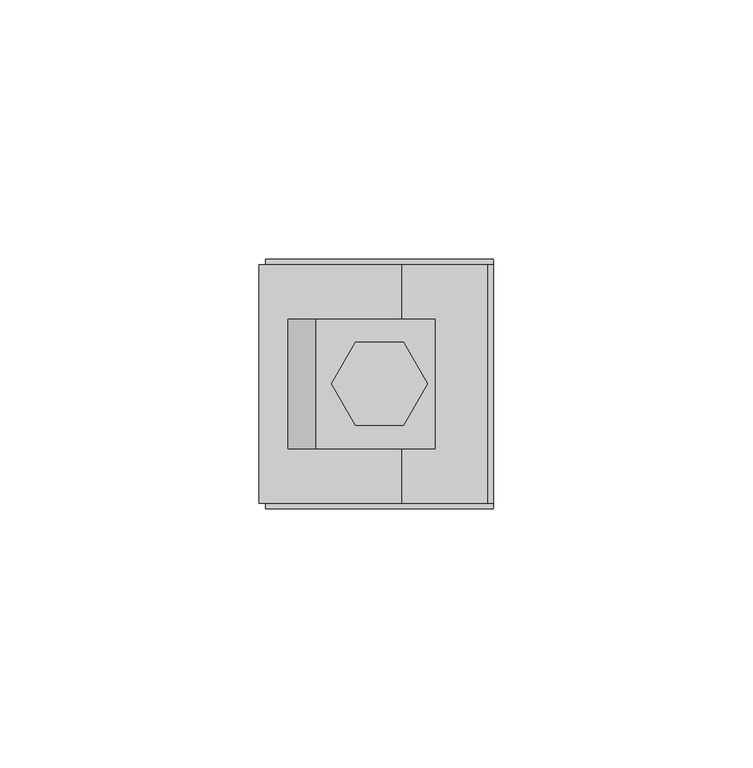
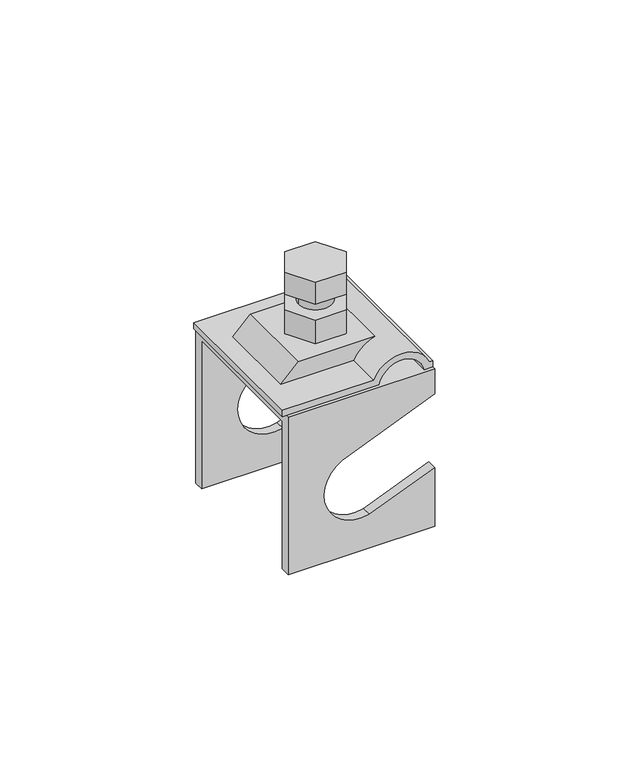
"""IFC4 building model written with IfcOpenShell, lengths in millimetres: proxy geometry, КНС_ЗажимАрматурный_DKC : ND2004_Гальванически оцинкованнная сталь_С наконечником."""

from ifc_helpers import new_model, si_unit, point, frame, frame_2d, origin, place, context, project, spatial, polyline, circle_curve, trimmed, segment, composite_curve, outline, extrude, source, transform, mapped, element, save
from ifc_brep_helpers import plane_surface, cylinder_surface, revolved_surface, advanced_brep


def security_devices_3cd45d94(model_context):
    return source(origin(), model_context, "Body", "SolidModel", [
        extrude(outline(composite_curve([segment(polyline([(36.2009519, -12.3612193), (30.9400841, -17.6220872), (30.9400841, 4.3678793)]), True, "CONTINUOUS"), segment(trimmed(circle_curve(frame_2d((27.4109306, 12.6460299)), 8.9990389), [point((30.9400841, 4.3678793))], [point((36.2009519, 10.7177594))], True, "CARTESIAN"), True, "CONTINUOUS"), segment(polyline([(36.2009519, 10.7177594), (36.2009519, -12.3612193)]), True, "CONTINUOUS")], self_intersect=False)), frame((0.0, -12.5, 0.0), z_axis=(0.0, 1.0, 0.0), x_axis=(0.0, 0.0, 1.0)), (0.0, 0.0, 1.0), 25.0),
        extrude(outline(polyline([(-9.2376043, 0.0), (-4.6188022, 8.0), (4.6188022, 8.0), (9.2376043, 0.0), (4.6188022, -8.0), (-4.6188022, -8.0), (-9.2376043, 0.0)])), frame((0.0, 0.0, 17.422542), z_axis=(0.0, 0.0, 1.0), x_axis=(1.0, 0.0, 0.0)), (0.0, 0.0, 1.0), 7.3626428),
        extrude(outline(polyline([(-9.2376043, 0.0), (-4.6188022, 8.0), (4.6188022, 8.0), (9.2376043, 0.0), (4.6188022, -8.0), (-4.6188022, -8.0), (-9.2376043, 0.0)])), frame((0.0, 0.0, 36.2009519), z_axis=(0.0, 0.0, 1.0), x_axis=(1.0, 0.0, 0.0)), (0.0, 0.0, 1.0), 7.815636),
        extrude(outline(composite_curve([segment(polyline([(28.9400841, -23.1748062), (28.9400841, 5.8160785)]), True, "CONTINUOUS"), segment(trimmed(circle_curve(frame_2d((27.4109306, 12.6460299)), 6.9990389), [point((28.9400841, 5.8160785))], [point((28.9400841, 19.4759813))], True, "CARTESIAN"), True, "CONTINUOUS"), segment(polyline([(28.9400841, 19.4759813), (28.9400841, 22.0), (30.9400841, 22.0), (30.9400841, 20.9241805)]), True, "CONTINUOUS"), segment(trimmed(circle_curve(frame_2d((27.4109306, 12.6460299)), 8.9990389), [point((30.9400841, 20.9241805))], [point((30.9400841, 4.3678793))], False, "CARTESIAN"), True, "CONTINUOUS"), segment(polyline([(30.9400841, 4.3678793), (30.9400841, -23.1748062), (28.9400841, -23.1748062)]), True, "CONTINUOUS")], self_intersect=False)), frame((0.0, -23.0, 0.0), z_axis=(0.0, 1.0, 0.0), x_axis=(0.0, 0.0, 1.0)), (0.0, 0.0, 1.0), 46.0),
        advanced_brep(
        [(-5.0, 0.0, 9.0), (5.0, 0.0, 9.0), (5.0, 0.0, 49.0433713), (-5.0, 0.0, 49.0433713), (-9.2376043, 0.0, 56.0), (-4.6188022, -8.0, 56.0), (4.6188022, -8.0, 56.0), (9.2376043, 0.0, 56.0), (4.6188022, 8.0, 56.0), (-4.6188022, 8.0, 56.0), (-9.2376043, 0.0, 49.0433713), (-4.6188022, 8.0, 49.0433713), (4.6188022, 8.0, 49.0433713), (9.2376043, 0.0, 49.0433713), (4.6188022, -8.0, 49.0433713), (-4.6188022, -8.0, 49.0433713)],
        [
            (0, 1, circle_curve(frame((0.0, 0.0, 9.0), z_axis=(0.0, 0.0, -1.0), x_axis=(1.0, 0.0, 0.0)), 5.0)),
            (1, 0, circle_curve(frame((0.0, 0.0, 9.0), z_axis=(0.0, 0.0, -1.0), x_axis=(1.0, 0.0, 0.0)), 5.0)),
            (1, 2),
            (2, 3, circle_curve(frame((0.0, 0.0, 49.0433713), z_axis=(0.0, 0.0, -1.0), x_axis=(1.0, 0.0, 0.0)), 5.0)),
            (3, 0),
            (3, 2, circle_curve(frame((0.0, 0.0, 49.0433713), z_axis=(0.0, 0.0, -1.0), x_axis=(1.0, 0.0, 0.0)), 5.0)),
            (4, 5),
            (5, 6),
            (6, 7),
            (7, 8),
            (8, 9),
            (9, 4),
            (10, 11),
            (11, 12),
            (12, 13),
            (13, 14),
            (14, 15),
            (15, 10),
            (4, 10),
            (15, 5),
            (14, 6),
            (13, 7),
            (12, 8),
            (11, 9),
        ],
        [
            plane_surface(frame((5.0, 0.0, 9.0), z_axis=(0.0, 0.0, -1.0), x_axis=(0.0, -1.0, 0.0))),
            cylinder_surface(frame((0.0, 0.0, 9.0), z_axis=(0.0, 0.0, 1.0), x_axis=(1.0, 0.0, 0.0)), 5.0),
            plane_surface(frame((-9.2376043, 0.0, 56.0), z_axis=(0.0, 0.0, 1.0), x_axis=(0.4999999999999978, -0.8660254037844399, 0.0))),
            plane_surface(frame((-9.2376043, 0.0, 49.0433713), z_axis=(0.0, 0.0, -1.0), x_axis=(-0.4999999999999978, 0.8660254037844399, 0.0))),
            plane_surface(frame((-9.2376043, 0.0, 56.0), z_axis=(-0.8660254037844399, -0.4999999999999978, 0.0), x_axis=(0.0, 0.0, -1.0))),
            plane_surface(frame((-4.6188022, -8.0, 56.0), z_axis=(0.0, -1.0, 0.0), x_axis=(0.0, 0.0, -1.0))),
            plane_surface(frame((4.6188022, -8.0, 56.0), z_axis=(0.8660254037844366, -0.5000000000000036, 0.0), x_axis=(0.0, 0.0, -1.0))),
            plane_surface(frame((9.2376043, 0.0, 56.0), z_axis=(0.8660254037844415, 0.4999999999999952, 0.0), x_axis=(0.0, 0.0, -1.0))),
            plane_surface(frame((4.6188022, 8.0, 56.0), z_axis=(0.0, 1.0, 0.0), x_axis=(0.0, 0.0, -1.0))),
            plane_surface(frame((-4.6188022, 8.0, 56.0), z_axis=(-0.866025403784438, 0.5000000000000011, 0.0), x_axis=(0.0, 0.0, -1.0))),
        ],
        [
            (0, [[1, 2]]),
            (1, [[-2, 3, 4, 5]]),
            (1, [[-1, -5, 6, -3]]),
            (2, [[7, 8, 9, 10, 11, 12]]),
            (3, [[13, 14, 15, 16, 17, 18], [-4, -6]]),
            (4, [[-7, 19, -18, 20]]),
            (5, [[-8, -20, -17, 21]]),
            (6, [[-9, -21, -16, 22]]),
            (7, [[-10, -22, -15, 23]]),
            (8, [[-11, -23, -14, 24]]),
            (9, [[-12, -24, -13, -19]]),
        ],
    ),
        advanced_brep(
        [(22.0, 24.0, 28.9400841), (22.0, -24.0, 28.9400841), (22.0, -24.0, 20.9400841), (22.0, -21.0, 20.9400841), (22.0, -21.0, 25.9400841), (22.0, 21.0, 25.9400841), (22.0, 21.0, 20.9400841), (22.0, 24.0, 20.9400841), (22.0, -24.0, -21.0599159), (22.0, -21.0, -21.0599159), (22.0, -21.0, -2.4565907), (22.0, -24.0, -2.4565907), (22.0, 21.0, -21.0599159), (22.0, 24.0, -21.0599159), (22.0, 24.0, -2.4565907), (22.0, 21.0, -2.4565907), (-22.0, 24.0, -21.0599159), (-22.0, 21.0, -21.0599159), (-22.0, 21.0, 25.9400841), (-22.0, -21.0, 25.9400841), (-22.0, -21.0, -21.0599159), (-22.0, -24.0, -21.0599159), (-22.0, -24.0, 28.9400841), (-22.0, 24.0, 28.9400841), (-5.8155156, 24.0, 9.7018863), (2.3108323, 24.0, -10.4115308), (2.3108323, -24.0, -10.4115308), (-5.8155156, -24.0, 9.7018863), (-5.8155156, -21.0, 9.7018863), (2.3108323, -21.0, -10.4115308), (2.3108323, 21.0, -10.4115308), (-5.8155156, 21.0, 9.7018863)],
        [
            (0, 1),
            (1, 2),
            (2, 3),
            (3, 4),
            (4, 5),
            (5, 6),
            (6, 7),
            (7, 0),
            (8, 9),
            (9, 10),
            (10, 11),
            (11, 8),
            (12, 13),
            (13, 14),
            (14, 15),
            (15, 12),
            (16, 17),
            (17, 18),
            (18, 19),
            (19, 20),
            (20, 21),
            (21, 22),
            (22, 23),
            (23, 16),
            (23, 0),
            (7, 24),
            (24, 25, circle_curve(frame((-0.3091751, 24.0, 0.2282549), z_axis=(0.0, -1.0, 0.0), x_axis=(1.0, 0.0, 0.0)), 10.9576219)),
            (25, 14),
            (13, 16),
            (22, 1),
            (21, 8),
            (11, 26),
            (26, 27, circle_curve(frame((-0.3091751, -24.0, 0.2282549), z_axis=(0.0, 1.0, 0.0), x_axis=(1.0, 0.0, 0.0)), 10.9576219)),
            (27, 2),
            (20, 9),
            (19, 4),
            (3, 28),
            (28, 29, circle_curve(frame((-0.3091751, -21.0, 0.2282549), z_axis=(0.0, -1.0, 0.0), x_axis=(1.0, 0.0, 0.0)), 10.9576219)),
            (29, 10),
            (18, 5),
            (17, 12),
            (15, 30),
            (30, 31, circle_curve(frame((-0.3091751, 21.0, 0.2282549), z_axis=(0.0, 1.0, 0.0), x_axis=(1.0, 0.0, 0.0)), 10.9576219)),
            (31, 6),
            (28, 27),
            (26, 29),
            (24, 31),
            (30, 25),
        ],
        [
            plane_surface(frame((22.0, 24.0, -21.0599159), z_axis=(1.0, 0.0, 0.0), x_axis=(0.0, 0.0, 1.0))),
            plane_surface(frame((-22.0, 24.0, -21.0599159), z_axis=(-1.0, 0.0, 0.0), x_axis=(0.0, 0.0, -1.0))),
            plane_surface(frame((22.0, 24.0, -21.0599159), z_axis=(0.0, 1.0, 0.0), x_axis=(-1.0, 0.0, 0.0))),
            plane_surface(frame((22.0, 24.0, 28.9400841), z_axis=(0.0, 0.0, 1.0), x_axis=(-1.0, 0.0, 0.0))),
            plane_surface(frame((22.0, -24.0, 28.9400841), z_axis=(0.0, -1.0, 0.0), x_axis=(-1.0, 0.0, 0.0))),
            plane_surface(frame((22.0, -24.0, -21.0599159), z_axis=(0.0, 0.0, -1.0), x_axis=(-1.0, 0.0, 0.0))),
            plane_surface(frame((22.0, -21.0, -21.0599159), z_axis=(0.0, 1.0, 0.0), x_axis=(-1.0, 0.0, 0.0))),
            plane_surface(frame((22.0, -21.0, 25.9400841), z_axis=(0.0, 0.0, -1.0), x_axis=(-1.0, 0.0, 0.0))),
            plane_surface(frame((22.0, 21.0, 25.9400841), z_axis=(0.0, -1.0, 0.0), x_axis=(-1.0, 0.0, 0.0))),
            plane_surface(frame((22.0, 21.0, -21.0599159), z_axis=(0.0, 0.0, -1.0), x_axis=(-1.0, 0.0, 0.0))),
            revolved_surface(polyline([(10.6484468, -24.0, 0.2282549), (10.6484468, -21.0, 0.2282549)]), (-0.3091751, 24.0, 0.2282549), (0.0, -1.0, 0.0)),
            revolved_surface(polyline([(10.6484468, 21.0, 0.2282549), (10.6484468, 24.0, 0.2282549)]), (-0.3091751, 24.0, 0.2282549), (0.0, -1.0, 0.0)),
            plane_surface(frame((2.3108323, -24.0, -10.4115308), z_axis=(-0.37460659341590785, 0.0, 0.9271838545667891), x_axis=(0.0, 1.0, 0.0))),
            plane_surface(frame((22.0, -24.0, 20.9400841), z_axis=(0.37460659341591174, 0.0, -0.9271838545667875), x_axis=(0.0, 1.0, 0.0))),
        ],
        [
            (0, [[1, 2, 3, 4, 5, 6, 7, 8]]),
            (0, [[9, 10, 11, 12]]),
            (0, [[13, 14, 15, 16]]),
            (1, [[17, 18, 19, 20, 21, 22, 23, 24]]),
            (2, [[-24, 25, -8, 26, 27, 28, -14, 29]]),
            (3, [[-1, -25, -23, 30]]),
            (4, [[-22, 31, -12, 32, 33, 34, -2, -30]]),
            (5, [[-9, -31, -21, 35]]),
            (6, [[-20, 36, -4, 37, 38, 39, -10, -35]]),
            (7, [[-5, -36, -19, 40]]),
            (8, [[-18, 41, -16, 42, 43, 44, -6, -40]]),
            (9, [[-13, -41, -17, -29]]),
            (10, [[45, -33, 46, -38]]),
            (11, [[47, -43, 48, -27]]),
            (12, [[-46, -32, -11, -39]]),
            (12, [[-48, -42, -15, -28]]),
            (13, [[-45, -37, -3, -34]]),
            (13, [[-47, -26, -7, -44]]),
        ],
    ),
    ])


if __name__ == "__main__":
    model = new_model("IFC4")
    model_context = context("Model", 3, world=origin())
    ifc_project = project(units=[si_unit("LENGTHUNIT", "METRE", prefix="MILLI")], contexts=[model_context])
    site = spatial("IfcSite", under=ifc_project)
    building = spatial("IfcBuilding", under=site)
    placement = place(None, origin())
    security_devices_shape = security_devices_3cd45d94(model_context)
    element("IfcBuildingElementProxy", 1, Name="КНС_ЗажимАрматурный_DKC : ND2004_Гальванически оцинкованнная сталь_С наконечником", ObjectType="КНС_ЗажимАрматурный_DKC : ND2004_Гальванически оцинкованнная сталь_С наконечником", at=placement, inside=building, context=model_context, shape_type="MappedRepresentation", body=[
        mapped(security_devices_shape, transform((0.0, 0.0, 0.0), x_axis=(1.0, 0.0, 0.0), y_axis=(0.0, 1.0, 0.0), z_axis=(0.0, 0.0, 1.0))),
    ])
    save(model, "model.ifc")
